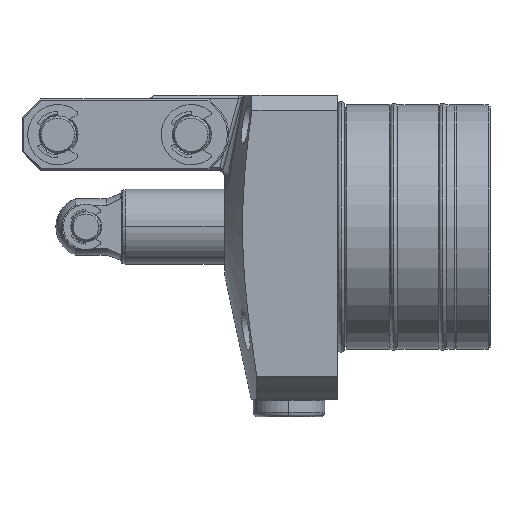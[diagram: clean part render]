
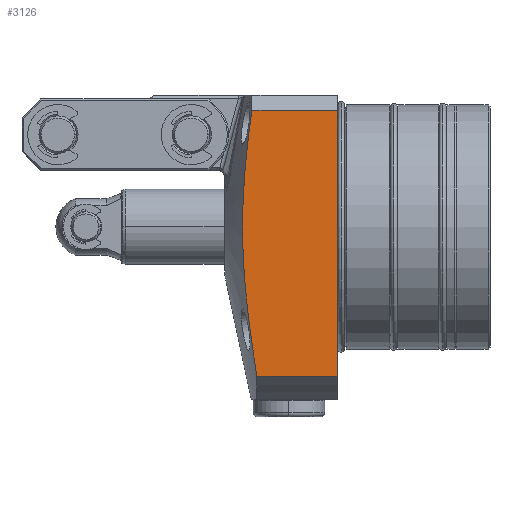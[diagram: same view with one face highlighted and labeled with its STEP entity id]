
A CAD part, top view. The second image highlights one B-rep face of the part: STEP entity #3126.
In plain terms, the highlighted planar face has unit normal (0, 0, 1).
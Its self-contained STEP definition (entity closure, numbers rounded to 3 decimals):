
#1477=B_SPLINE_CURVE_WITH_KNOTS('',3,(#12956,#12957,#12958,#12959,#12960,
#12961),.UNSPECIFIED.,.F.,.F.,(4,2,4),(0.,0.5,1.),.UNSPECIFIED.);
#1793=PLANE('',#8918);
#2395=LINE('',#13411,#2764);
#2401=LINE('',#13438,#2770);
#2402=LINE('',#13440,#2771);
#2764=VECTOR('',#10895,1.);
#2770=VECTOR('',#10913,1.);
#2771=VECTOR('',#10916,1.);
#3126=ADVANCED_FACE('',(#3615),#1793,.F.);
#3615=FACE_OUTER_BOUND('',#4049,.T.);
#4049=EDGE_LOOP('',(#5562,#5563,#5564,#5565));
#5562=ORIENTED_EDGE('',*,*,#7499,.F.);
#5563=ORIENTED_EDGE('',*,*,#7498,.T.);
#5564=ORIENTED_EDGE('',*,*,#7399,.T.);
#5565=ORIENTED_EDGE('',*,*,#7488,.F.);
#6571=VERTEX_POINT('',#12955);
#6572=VERTEX_POINT('',#12962);
#6637=VERTEX_POINT('',#13410);
#6642=VERTEX_POINT('',#13437);
#7399=EDGE_CURVE('',#6572,#6571,#1477,.T.);
#7488=EDGE_CURVE('',#6637,#6571,#2395,.T.);
#7498=EDGE_CURVE('',#6642,#6572,#2401,.T.);
#7499=EDGE_CURVE('',#6642,#6637,#2402,.T.);
#8918=AXIS2_PLACEMENT_3D('',#13441,#10917,#10918);
#10895=DIRECTION('',(-1.,0.,0.));
#10913=DIRECTION('',(-1.,0.,0.));
#10916=DIRECTION('',(0.,-1.,0.));
#10917=DIRECTION('',(0.,0.,-1.));
#10918=DIRECTION('',(0.,-1.,0.));
#12955=CARTESIAN_POINT('',(-21.51,-39.799,35.));
#12956=CARTESIAN_POINT('',(-22.837,31.,35.));
#12957=CARTESIAN_POINT('',(-24.494,19.242,35.));
#12958=CARTESIAN_POINT('',(-25.589,7.464,35.));
#12959=CARTESIAN_POINT('',(-24.967,-16.193,35.));
#12960=CARTESIAN_POINT('',(-23.386,-28.048,35.));
#12961=CARTESIAN_POINT('',(-21.51,-39.799,35.));
#12962=CARTESIAN_POINT('',(-22.837,31.,35.));
#13410=CARTESIAN_POINT('',(0.,-39.799,35.));
#13411=CARTESIAN_POINT('',(31.5,-39.799,35.));
#13437=CARTESIAN_POINT('',(0.,31.,35.));
#13438=CARTESIAN_POINT('',(31.501,31.,35.));
#13440=CARTESIAN_POINT('',(0.,31.,35.));
#13441=CARTESIAN_POINT('',(31.501,31.,35.));
